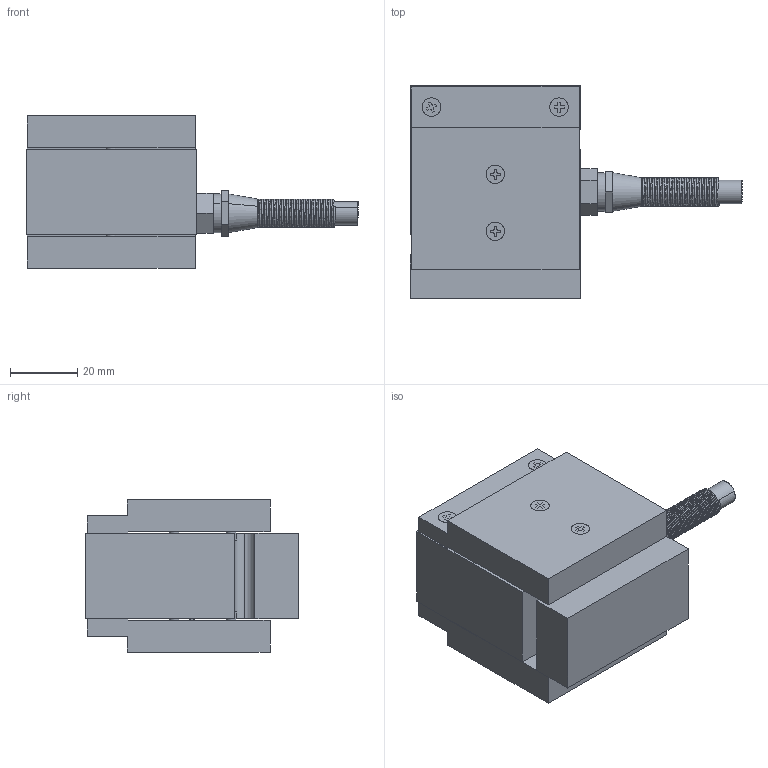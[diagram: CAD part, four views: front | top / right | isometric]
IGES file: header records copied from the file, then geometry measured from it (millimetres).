
Start section: SolidWorks IGES file using analytic representation for surfaces
Global section: file name: O:\16-Entwicklung\Projekte\03_Kraftsensoren\0226_KT1402\01_Mechanik & Gehäuse\01_Solid Works\01_Outline 3D files\Volumenmodell\3D_KM1402_2KN.IGS; native system: SolidWorks 2012; preprocessor: SolidWorks 2012; author: AndreB; date: 140117.135245; units: metre
Bounding box: 98.9 x 63.5 x 45.4 mm (x, y, z)
Surface area: 30529 mm2 (no closed solid volume)
Topology: 0 solids, 0 shells, 86 faces, 1763 edges, 1763 vertices
Faces by surface type: bspline 69, revolution 17
